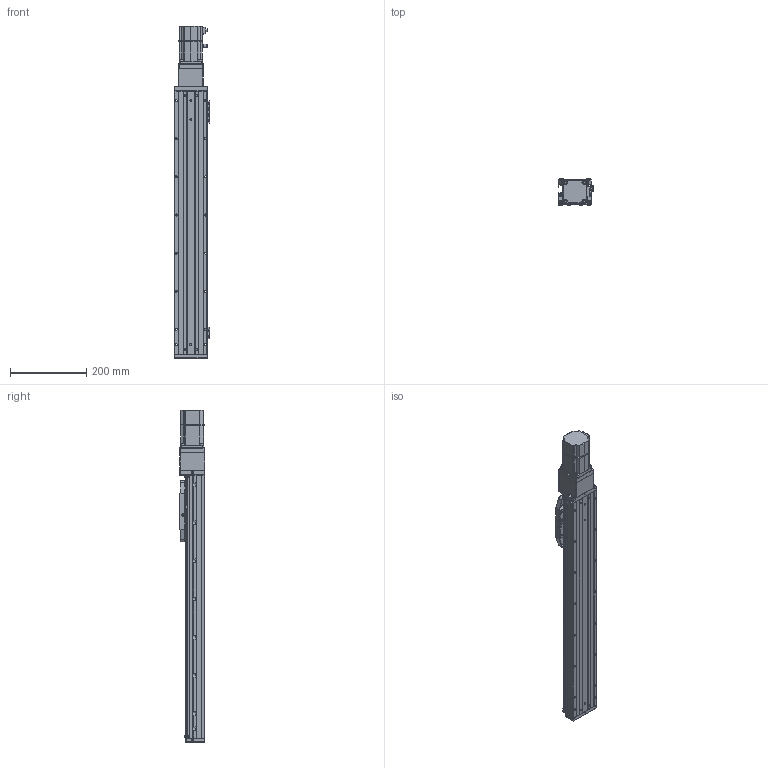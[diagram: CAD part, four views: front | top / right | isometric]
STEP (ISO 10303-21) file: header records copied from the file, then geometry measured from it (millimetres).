
FILE_DESCRIPTION (( 'STEP AP203' ), '1' );
FILE_NAME ('CTHA86-500-BC-M20-C4L.step', '2022-04-26T00:47:20', ( '微软用户' ), ( '微软中国' ), 'SwSTEP 2.0', 'SolidWorks 2020', '' );
FILE_SCHEMA (( 'CONFIG_CONTROL_DESIGN' ));
Length unit declared in the file: millimetre
Products named in the file (22): CTHA60-021; GBT77-2000 M3×3; CTHA86-027; CTHA86-500-BC-M20-C4L; KTHA86-001_690; GBT 70.1-M3×20; CTHA86-006-1_CTHA86-006-2; KTHA86-004; GBT70.1 M5℅16; _X2_4E0983F1_X0_200W_1; KTHA86-005; GBT 70.1-M3×16; GBT 70.3-M3℅6; GB¨uT 70.2-M3¡Á5_M3¡Á6; GBT 70.1-M3℅6; CTHA86-002; EE_SX911P_R; CTHA60-016; CTHA86-031; CTHA60-017; CTHA86-013; CTHA86-030
Assembly tree (65 placements, depth 2):
  CTHA86-500-BC-M20-C4L
    KTHA86-001_690
    KTHA86-004
    KTHA86-005
    GB¨uT 70.2-M3¡Á5_M3¡Á6  x10
    EE_SX911P_R  x3
    CTHA60-017  x3
    CTHA60-021  x2
    GBT77-2000 M3×3  x6
    GBT 70.1-M3×20
    GBT70.1 M5℅16  x14
    GBT 70.1-M3×16
    GBT 70.1-M3℅6  x6
    CTHA60-016  x2
    CTHA86-013
    CTHA86-027
    CTHA86-006-1_CTHA86-006-2
    _X2_4E0983F1_X0_200W_1
    GBT 70.3-M3℅6  x6
    CTHA86-002
    CTHA86-031
    CTHA86-030  x2
Bounding box: 93.82 x 68 x 870.5 mm (x, y, z)
Volume: 2952683.4 mm3; surface area: 532057.3 mm2
Topology: 67 solids, 67 shells, 2714 faces, 6471 edges, 3976 vertices
Faces by surface type: plane 1416, cylinder 697, cone 388, torus 120, bspline 69, sphere 24
Entity records: 47629 total; most frequent: CARTESIAN_POINT 8848, DIRECTION 7488, ORIENTED_EDGE 7198, EDGE_CURVE 3599, AXIS2_PLACEMENT_3D 2552, LINE 2384, VECTOR 2384, VERTEX_POINT 2254
